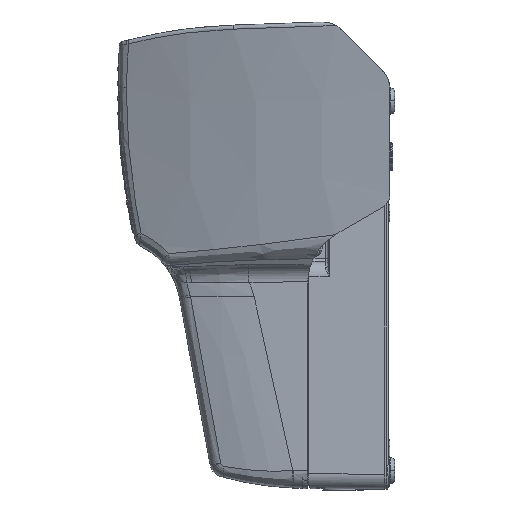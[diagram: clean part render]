
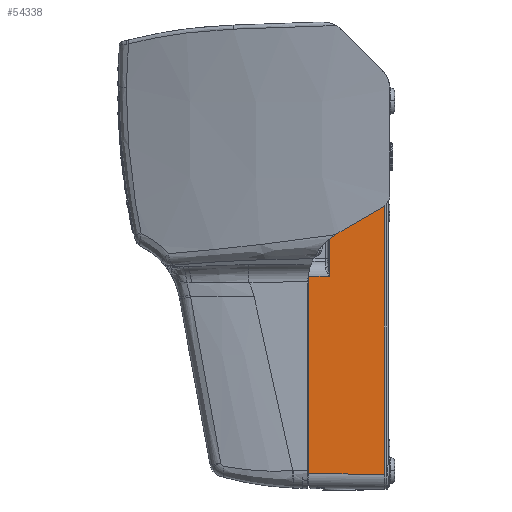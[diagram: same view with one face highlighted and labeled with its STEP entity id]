
A CAD part, left-side view. The second image highlights one B-rep face of the part: STEP entity #54338.
In plain terms, the highlighted planar face has unit normal (-1, 0.009, 0).
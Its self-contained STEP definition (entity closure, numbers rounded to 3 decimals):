
#2413=DIRECTION('',(0.,0.,1.));
#2414=VECTOR('',#2413,6.171);
#2415=CARTESIAN_POINT('',(-35.314,7.,75.286));
#2416=LINE('',#2415,#2414);
#3979=DIRECTION('',(0.,0.,1.));
#3980=VECTOR('',#3979,105.647);
#3981=CARTESIAN_POINT('',(-35.004,42.504,
-122.147));
#3982=LINE('',#3981,#3980);
#4231=CARTESIAN_POINT('',(-35.1,31.504,
-16.5));
#4268=DIRECTION('',(0.009,1.,0.));
#4269=VECTOR('',#4268,11.);
#4270=CARTESIAN_POINT('',(-35.1,31.504,
-16.5));
#4271=LINE('',#4270,#4269);
#4272=DIRECTION('',(0.,0.,1.));
#4273=VECTOR('',#4272,204.);
#4274=CARTESIAN_POINT('',(-35.358,2.,-122.5));
#4275=LINE('',#4274,#4273);
#4280=DIRECTION('',(0.,0.,1.));
#4281=VECTOR('',#4280,40.443);
#4282=CARTESIAN_POINT('',(-35.1,31.504,
-16.5));
#4283=LINE('',#4282,#4281);
#4303=CARTESIAN_POINT('',(-35.1,31.504,23.946));
#4331=CARTESIAN_POINT('',(-35.1,31.504,23.937));
#4332=CARTESIAN_POINT('',(-35.101,31.37,24.556));
#4333=CARTESIAN_POINT('',(-35.104,31.087,25.792));
#4334=CARTESIAN_POINT('',(-35.108,30.607,27.634));
#4335=CARTESIAN_POINT('',(-35.113,30.078,29.471));
#4336=CARTESIAN_POINT('',(-35.118,29.499,31.297));
#4337=CARTESIAN_POINT('',(-35.123,28.869,33.11));
#4338=CARTESIAN_POINT('',(-35.129,28.191,34.907));
#4339=CARTESIAN_POINT('',(-35.136,27.464,36.685));
#4340=CARTESIAN_POINT('',(-35.142,26.69,38.442));
#4341=CARTESIAN_POINT('',(-35.149,25.87,40.178));
#4342=CARTESIAN_POINT('',(-35.157,25.003,41.891));
#4343=CARTESIAN_POINT('',(-35.165,24.091,43.579));
#4344=CARTESIAN_POINT('',(-35.173,23.134,45.242));
#4345=CARTESIAN_POINT('',(-35.182,22.133,46.88));
#4346=CARTESIAN_POINT('',(-35.191,21.088,48.489));
#4347=CARTESIAN_POINT('',(-35.201,20.,50.07));
#4348=CARTESIAN_POINT('',(-35.211,18.87,51.622));
#4349=CARTESIAN_POINT('',(-35.221,17.698,53.143));
#4350=CARTESIAN_POINT('',(-35.231,16.485,54.633));
#4351=CARTESIAN_POINT('',(-35.242,15.233,56.089));
#4352=CARTESIAN_POINT('',(-35.254,13.944,57.511));
#4353=CARTESIAN_POINT('',(-35.265,12.617,58.896));
#4354=CARTESIAN_POINT('',(-35.273,11.709,59.794));
#4355=CARTESIAN_POINT('',(-35.277,11.249,60.237));
#4503=CARTESIAN_POINT('',(-35.277,11.249,60.237));
#4504=CARTESIAN_POINT('',(-35.278,11.104,60.377));
#4505=CARTESIAN_POINT('',(-35.281,10.819,60.663));
#4506=CARTESIAN_POINT('',(-35.284,10.407,61.11));
#4507=CARTESIAN_POINT('',(-35.288,10.012,61.573));
#4508=CARTESIAN_POINT('',(-35.291,9.635,62.051));
#4509=CARTESIAN_POINT('',(-35.294,9.278,62.544));
#4510=CARTESIAN_POINT('',(-35.297,8.941,63.05));
#4511=CARTESIAN_POINT('',(-35.3,8.624,63.568));
#4512=CARTESIAN_POINT('',(-35.303,8.327,64.098));
#4513=CARTESIAN_POINT('',(-35.305,8.052,64.639));
#4514=CARTESIAN_POINT('',(-35.307,7.797,65.192));
#4515=CARTESIAN_POINT('',(-35.309,7.565,65.753));
#4516=CARTESIAN_POINT('',(-35.311,7.355,66.323));
#4517=CARTESIAN_POINT('',(-35.313,7.167,66.901));
#4518=CARTESIAN_POINT('',(-35.314,7.002,67.486));
#4519=CARTESIAN_POINT('',(-35.315,6.861,68.076));
#4520=CARTESIAN_POINT('',(-35.316,6.742,68.671));
#4521=CARTESIAN_POINT('',(-35.317,6.647,69.271));
#4522=CARTESIAN_POINT('',(-35.318,6.576,69.874));
#4523=CARTESIAN_POINT('',(-35.318,6.528,70.48));
#4524=CARTESIAN_POINT('',(-35.318,6.504,71.087));
#4525=CARTESIAN_POINT('',(-35.319,6.503,71.695));
#4526=CARTESIAN_POINT('',(-35.318,6.527,72.303));
#4527=CARTESIAN_POINT('',(-35.318,6.574,72.909));
#4528=CARTESIAN_POINT('',(-35.317,6.645,73.511));
#4529=CARTESIAN_POINT('',(-35.316,6.739,74.109));
#4530=CARTESIAN_POINT('',(-35.315,6.856,74.702));
#4531=CARTESIAN_POINT('',(-35.315,6.95,75.091));
#4532=CARTESIAN_POINT('',(-35.314,7.,75.284));
#4599=DIRECTION('',(-0.009,-1.,0.009));
#4600=VECTOR('',#4599,5.);
#4601=CARTESIAN_POINT('',(-35.314,7.,81.457));
#4602=LINE('',#4601,#4600);
#5316=DIRECTION('',(-0.009,-1.,-0.009));
#5317=VECTOR('',#5316,40.507);
#5318=CARTESIAN_POINT('',(-35.004,42.504,
-122.147));
#5319=LINE('',#5318,#5317);
#44444=CARTESIAN_POINT('',(-35.314,7.,81.457));
#44445=CARTESIAN_POINT('',(-35.358,2.,81.5));
#44446=VERTEX_POINT('',#44444);
#44447=VERTEX_POINT('',#44445);
#44456=CARTESIAN_POINT('',(-35.358,2.,-122.5));
#44457=VERTEX_POINT('',#44456);
#44502=CARTESIAN_POINT('',(-35.314,7.,
75.286));
#44503=VERTEX_POINT('',#44502);
#44510=VERTEX_POINT('',#4303);
#44778=CARTESIAN_POINT('',(-35.004,42.504,
-122.147));
#44779=CARTESIAN_POINT('',(-35.004,42.504,
-16.5));
#44780=VERTEX_POINT('',#44778);
#44781=VERTEX_POINT('',#44779);
#45333=VERTEX_POINT('',#4231);
#45393=VERTEX_POINT('',#4503);
#54316=CARTESIAN_POINT('',(-35.358,2.,67.715));
#54317=DIRECTION('',(-1.,0.009,0.));
#54318=DIRECTION('',(0.,0.,1.));
#54319=AXIS2_PLACEMENT_3D('',#54316,#54317,#54318);
#54320=PLANE('',#54319);
#54321=ORIENTED_EDGE('',*,*,#54042,.T.);
#54322=ORIENTED_EDGE('',*,*,#54299,.F.);
#54324=ORIENTED_EDGE('',*,*,#54323,.T.);
#54326=ORIENTED_EDGE('',*,*,#54325,.T.);
#54328=ORIENTED_EDGE('',*,*,#54327,.T.);
#54329=ORIENTED_EDGE('',*,*,#52827,.T.);
#54331=ORIENTED_EDGE('',*,*,#54330,.T.);
#54333=ORIENTED_EDGE('',*,*,#54332,.F.);
#54335=ORIENTED_EDGE('',*,*,#54334,.F.);
#54336=EDGE_LOOP('',(#54321,#54322,#54324,#54326,#54328,#54329,#54331,#54333,
#54335));
#54337=FACE_OUTER_BOUND('',#54336,.F.);
#4356=B_SPLINE_CURVE_WITH_KNOTS('',3,(#4331,#4332,#4333,#4334,#4335,#4336,#4337,
#4338,#4339,#4340,#4341,#4342,#4343,#4344,#4345,#4346,#4347,#4348,#4349,#4350,
#4351,#4352,#4353,#4354,#4355),.UNSPECIFIED.,.F.,.F.,(4,1,1,1,1,1,1,1,1,1,1,1,1,
1,1,1,1,1,1,1,1,1,4),(0.,0.045,0.091,
0.136,0.182,0.227,0.273,
0.318,0.364,0.409,0.455,0.5,
0.545,0.591,0.636,0.682,
0.727,0.773,0.818,0.864,
0.909,0.955,1.),.UNSPECIFIED.);
#4533=B_SPLINE_CURVE_WITH_KNOTS('',3,(#4503,#4504,#4505,#4506,#4507,#4508,#4509,
#4510,#4511,#4512,#4513,#4514,#4515,#4516,#4517,#4518,#4519,#4520,#4521,#4522,
#4523,#4524,#4525,#4526,#4527,#4528,#4529,#4530,#4531,#4532),.UNSPECIFIED.,.F.,
.F.,(4,1,1,1,1,1,1,1,1,1,1,1,1,1,1,1,1,1,1,1,1,1,1,1,1,1,1,4),(0.,
0.037,0.074,0.111,0.148,
0.185,0.222,0.259,0.296,
0.333,0.37,0.407,0.444,
0.481,0.519,0.556,0.593,
0.63,0.667,0.704,0.741,
0.778,0.815,0.852,0.889,
0.926,0.963,1.),.UNSPECIFIED.);
#52827=EDGE_CURVE('',#44503,#44446,#2416,.T.);
#54042=EDGE_CURVE('',#44780,#44781,#3982,.T.);
#54299=EDGE_CURVE('',#45333,#44781,#4271,.T.);
#54323=EDGE_CURVE('',#45333,#44510,#4283,.T.);
#54325=EDGE_CURVE('',#44510,#45393,#4356,.T.);
#54327=EDGE_CURVE('',#45393,#44503,#4533,.T.);
#54330=EDGE_CURVE('',#44446,#44447,#4602,.T.);
#54332=EDGE_CURVE('',#44457,#44447,#4275,.T.);
#54334=EDGE_CURVE('',#44780,#44457,#5319,.T.);
#54338=ADVANCED_FACE('',(#54337),#54320,.T.);
